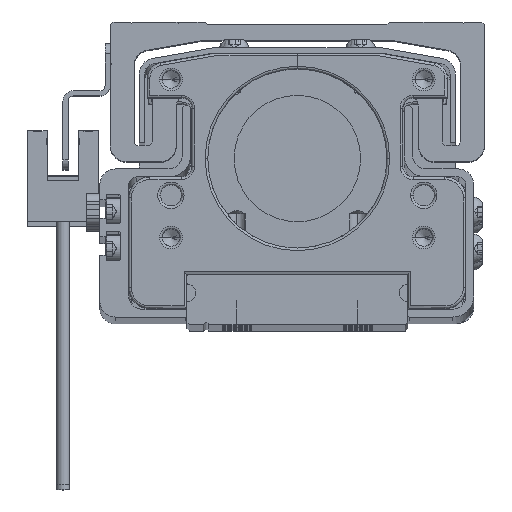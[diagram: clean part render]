
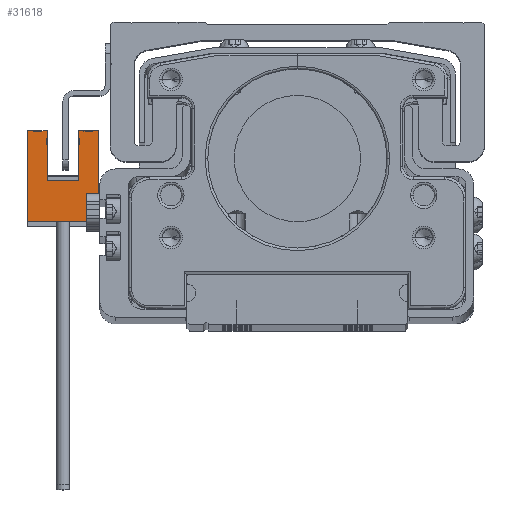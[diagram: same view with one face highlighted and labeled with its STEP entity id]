
A CAD part, top view. The second image highlights one B-rep face of the part: STEP entity #31618.
In plain terms, the highlighted planar face has unit normal (0, 0, 1) as drawn and (-1, 0, 0) by its records, which use the part's own axes.
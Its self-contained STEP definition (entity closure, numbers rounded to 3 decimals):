
#922 = VERTEX_POINT ( 'NONE', #17032 ) ;
#1591 = CARTESIAN_POINT ( 'NONE',  ( -3., -7.4, 6. ) ) ;
#2200 = ORIENTED_EDGE ( 'NONE', *, *, #14114, .T. ) ;
#2493 = AXIS2_PLACEMENT_3D ( 'NONE', #31010, #30648, #30635 ) ;
#2529 = VECTOR ( 'NONE', #29555, 1000. ) ;
#4449 = DIRECTION ( 'NONE',  ( 0., -1., 0. ) ) ;
#5325 = CARTESIAN_POINT ( 'NONE',  ( -3., 2., -3.7 ) ) ;
#5622 = VECTOR ( 'NONE', #4449, 1000. ) ;
#5635 = CARTESIAN_POINT ( 'NONE',  ( -3., 2., 6. ) ) ;
#6607 = ORIENTED_EDGE ( 'NONE', *, *, #51344, .T. ) ;
#7375 = CARTESIAN_POINT ( 'NONE',  ( -3., 2., 9.7 ) ) ;
#7438 = LINE ( 'NONE', #12266, #39828 ) ;
#7539 = VERTEX_POINT ( 'NONE', #23653 ) ;
#8233 = LINE ( 'NONE', #17720, #44416 ) ;
#8457 = LINE ( 'NONE', #32508, #29693 ) ;
#10618 = ORIENTED_EDGE ( 'NONE', *, *, #27264, .T. ) ;
#10874 = VECTOR ( 'NONE', #44089, 1000. ) ;
#11459 = VECTOR ( 'NONE', #17621, 1000. ) ;
#11853 = EDGE_LOOP ( 'NONE', ( #2200, #6607, #37308, #25545, #25331, #50910, #10618, #20972, #42557, #23861 ) ) ;
#12266 = CARTESIAN_POINT ( 'NONE',  ( -3., -9.9, -3.7 ) ) ;
#12285 = VECTOR ( 'NONE', #36307, 1000. ) ;
#12387 = DIRECTION ( 'NONE',  ( 0., 0., 1. ) ) ;
#13060 = CARTESIAN_POINT ( 'NONE',  ( -3., -9.9, 9.7 ) ) ;
#13807 = VERTEX_POINT ( 'NONE', #38629 ) ;
#13980 = LINE ( 'NONE', #29807, #2529 ) ;
#14114 = EDGE_CURVE ( 'NONE', #7539, #13807, #13980, .T. ) ;
#14197 = EDGE_CURVE ( 'NONE', #45988, #922, #33754, .T. ) ;
#14377 = VECTOR ( 'NONE', #30900, 1000. ) ;
#16711 = EDGE_CURVE ( 'NONE', #36248, #18338, #28228, .T. ) ;
#17032 = CARTESIAN_POINT ( 'NONE',  ( -3., 2., -3.7 ) ) ;
#17495 = CARTESIAN_POINT ( 'NONE',  ( -3., 2., 6. ) ) ;
#17621 = DIRECTION ( 'NONE',  ( 0., -1., 0. ) ) ;
#17720 = CARTESIAN_POINT ( 'NONE',  ( -3., -16.1, 7.5 ) ) ;
#18338 = VERTEX_POINT ( 'NONE', #7375 ) ;
#19277 = CARTESIAN_POINT ( 'NONE',  ( -3., -9.9, 7.5 ) ) ;
#20972 = ORIENTED_EDGE ( 'NONE', *, *, #42317, .T. ) ;
#21956 = DIRECTION ( 'NONE',  ( 0., 1., 0. ) ) ;
#23653 = CARTESIAN_POINT ( 'NONE',  ( -3., -15.2, -3.7 ) ) ;
#23861 = ORIENTED_EDGE ( 'NONE', *, *, #28248, .T. ) ;
#24366 = VERTEX_POINT ( 'NONE', #26904 ) ;
#25331 = ORIENTED_EDGE ( 'NONE', *, *, #34683, .T. ) ;
#25545 = ORIENTED_EDGE ( 'NONE', *, *, #16711, .T. ) ;
#26904 = CARTESIAN_POINT ( 'NONE',  ( -3., -7.4, 0. ) ) ;
#27264 = EDGE_CURVE ( 'NONE', #39379, #24366, #8457, .T. ) ;
#27472 = DIRECTION ( 'NONE',  ( 0., 0., -1. ) ) ;
#27534 = CARTESIAN_POINT ( 'NONE',  ( -3., 2., -3.7 ) ) ;
#28228 = LINE ( 'NONE', #30234, #14377 ) ;
#28248 = EDGE_CURVE ( 'NONE', #922, #7539, #51437, .T. ) ;
#29555 = DIRECTION ( 'NONE',  ( 0., 0., 1. ) ) ;
#29693 = VECTOR ( 'NONE', #32333, 1000. ) ;
#29752 = CARTESIAN_POINT ( 'NONE',  ( -3., 2., 0. ) ) ;
#29807 = CARTESIAN_POINT ( 'NONE',  ( -3., -15.2, -3.7 ) ) ;
#30234 = CARTESIAN_POINT ( 'NONE',  ( -3., 2., 9.7 ) ) ;
#30635 = DIRECTION ( 'NONE',  ( 0., 0., 1. ) ) ;
#30648 = DIRECTION ( 'NONE',  ( -1., 0., 0. ) ) ;
#30900 = DIRECTION ( 'NONE',  ( 0., 1., 0. ) ) ;
#31010 = CARTESIAN_POINT ( 'NONE',  ( -3., 2., -3.7 ) ) ;
#31575 = PLANE ( 'NONE',  #2493 ) ;
#31618 = ADVANCED_FACE ( 'NONE', ( #43587 ), #31575, .T. ) ;
#32333 = DIRECTION ( 'NONE',  ( 0., 0., -1. ) ) ;
#32481 = VECTOR ( 'NONE', #27472, 1000. ) ;
#32508 = CARTESIAN_POINT ( 'NONE',  ( -3., -7.4, -3.7 ) ) ;
#33345 = LINE ( 'NONE', #44833, #10874 ) ;
#33754 = LINE ( 'NONE', #27534, #32481 ) ;
#33894 = LINE ( 'NONE', #17495, #11459 ) ;
#34268 = EDGE_CURVE ( 'NONE', #41326, #36248, #7438, .T. ) ;
#34683 = EDGE_CURVE ( 'NONE', #18338, #48352, #33345, .T. ) ;
#34732 = LINE ( 'NONE', #36017, #12285 ) ;
#36017 = CARTESIAN_POINT ( 'NONE',  ( -3., 2., 0. ) ) ;
#36248 = VERTEX_POINT ( 'NONE', #13060 ) ;
#36307 = DIRECTION ( 'NONE',  ( 0., 1., 0. ) ) ;
#37308 = ORIENTED_EDGE ( 'NONE', *, *, #34268, .T. ) ;
#38629 = CARTESIAN_POINT ( 'NONE',  ( -3., -15.2, 7.5 ) ) ;
#39379 = VERTEX_POINT ( 'NONE', #1591 ) ;
#39828 = VECTOR ( 'NONE', #12387, 1000. ) ;
#41326 = VERTEX_POINT ( 'NONE', #19277 ) ;
#42317 = EDGE_CURVE ( 'NONE', #24366, #45988, #34732, .T. ) ;
#42557 = ORIENTED_EDGE ( 'NONE', *, *, #14197, .T. ) ;
#43587 = FACE_OUTER_BOUND ( 'NONE', #11853, .T. ) ;
#44022 = EDGE_CURVE ( 'NONE', #48352, #39379, #33894, .T. ) ;
#44089 = DIRECTION ( 'NONE',  ( 0., 0., -1. ) ) ;
#44416 = VECTOR ( 'NONE', #21956, 1000. ) ;
#44833 = CARTESIAN_POINT ( 'NONE',  ( -3., 2., -3.7 ) ) ;
#45988 = VERTEX_POINT ( 'NONE', #29752 ) ;
#48352 = VERTEX_POINT ( 'NONE', #5635 ) ;
#50910 = ORIENTED_EDGE ( 'NONE', *, *, #44022, .T. ) ;
#51344 = EDGE_CURVE ( 'NONE', #13807, #41326, #8233, .T. ) ;
#51437 = LINE ( 'NONE', #5325, #5622 ) ;
